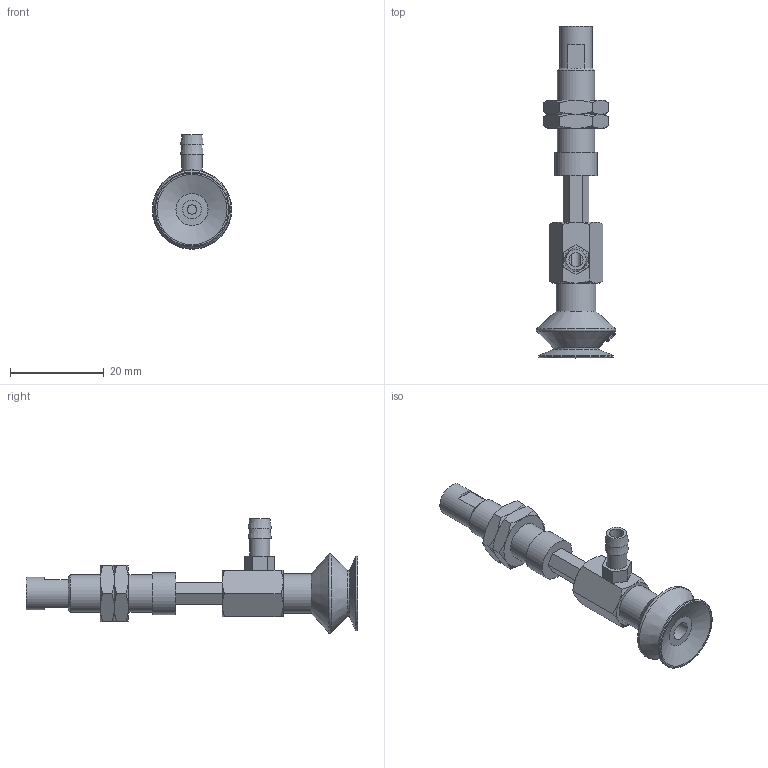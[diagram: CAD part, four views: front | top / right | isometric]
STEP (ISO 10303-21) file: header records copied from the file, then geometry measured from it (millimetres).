
FILE_DESCRIPTION(('STEP AP203'),'1');
FILE_NAME('-T.stp','2025-04-02T01:28:50',(' '),(' '),'Spatial InterOp 3D',' ',' ');
FILE_SCHEMA(('CONFIG_CONTROL_DESIGN'));
Length unit declared in the file: millimetre
Products named in the file (9): BNABPBYH-15A-10-※-T; CONNECTOR-15A-10-PB; Nut-15A-S-PB; NAPBTH-15A-10-FBODY; NAPBTH-15A-10-MBODY; BPBG-15A-※; __27; BPBG-15A; T
Assembly tree (9 placements, depth 3):
  BNABPBYH-15A-10-※-T
    CONNECTOR-15A-10-PB
    Nut-15A-S-PB  x2
    NAPBTH-15A-10-FBODY
    NAPBTH-15A-10-MBODY
    BPBG-15A-※
      __27
      BPBG-15A
    T
Bounding box: 17 x 71 x 24.5 mm (x, y, z)
Volume: 4769 mm3; surface area: 5426.5 mm2
Topology: 8 solids, 8 shells, 172 faces, 373 edges, 231 vertices
Faces by surface type: plane 76, cone 58, cylinder 19, torus 11, bspline 8
Full cylindrical faces by diameter (mm): 2 x1, 3 x1, 4 x3, 4.134 x2, 4.3 x1, 5 x2, 6 x2, 7 x1, 7.188 x2, 8 x1, 8.5 x1, 9 x1, 16 x1
Entity records: 5543 total; most frequent: CARTESIAN_POINT 2148, DIRECTION 597, ORIENTED_EDGE 536, EDGE_CURVE 268, AXIS2_PLACEMENT_3D 248, EDGE_LOOP 219, VERTEX_POINT 191, FACE_OUTER_BOUND 178
